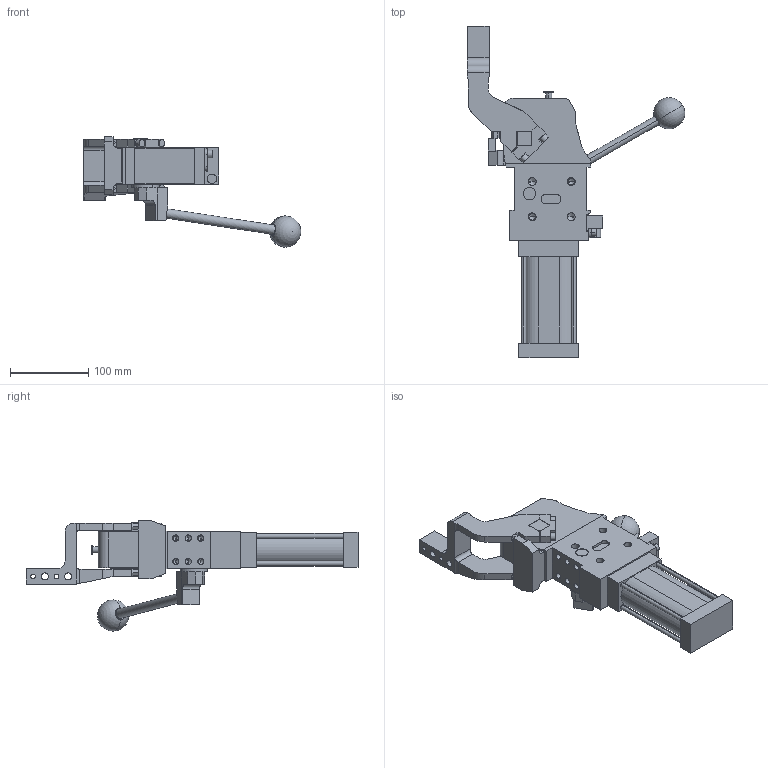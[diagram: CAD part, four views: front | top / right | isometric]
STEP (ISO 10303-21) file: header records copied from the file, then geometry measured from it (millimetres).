
FILE_DESCRIPTION (( 'STEP AP214' ), '1' );
FILE_NAME ('cplm50lbth3di1g_107.STEP', '2023-01-26T14:04:29', ( '' ), ( '' ), 'SwSTEP 2.0', 'SolidWorks 2022', '' );
FILE_SCHEMA (( 'AUTOMOTIVE_DESIGN' ));
Length unit declared in the file: millimetre
Products named in the file (5): cplm50lbth3di1g_107; leva_h3d_cpl50t; meccanica_cplm_50_tassello_esterno; blocchetto_VEP_0; comando_manuale_cplm_50
Assembly tree (4 placements, depth 2):
  cplm50lbth3di1g_107
    meccanica_cplm_50_tassello_esterno
    blocchetto_VEP_0
    leva_h3d_cpl50t
    comando_manuale_cplm_50
Bounding box: 277.96 x 424.5 x 141 mm (x, y, z)
Volume: 1515279.3 mm3; surface area: 191782 mm2
Topology: 4 solids, 4 shells, 468 faces, 1213 edges, 761 vertices
Faces by surface type: plane 247, cylinder 169, cone 50, sphere 2
Entity records: 15545 total; most frequent: CARTESIAN_POINT 2510, DIRECTION 2445, ORIENTED_EDGE 2324, EDGE_CURVE 1162, AXIS2_PLACEMENT_3D 827, LINE 791, VECTOR 791, VERTEX_POINT 758
